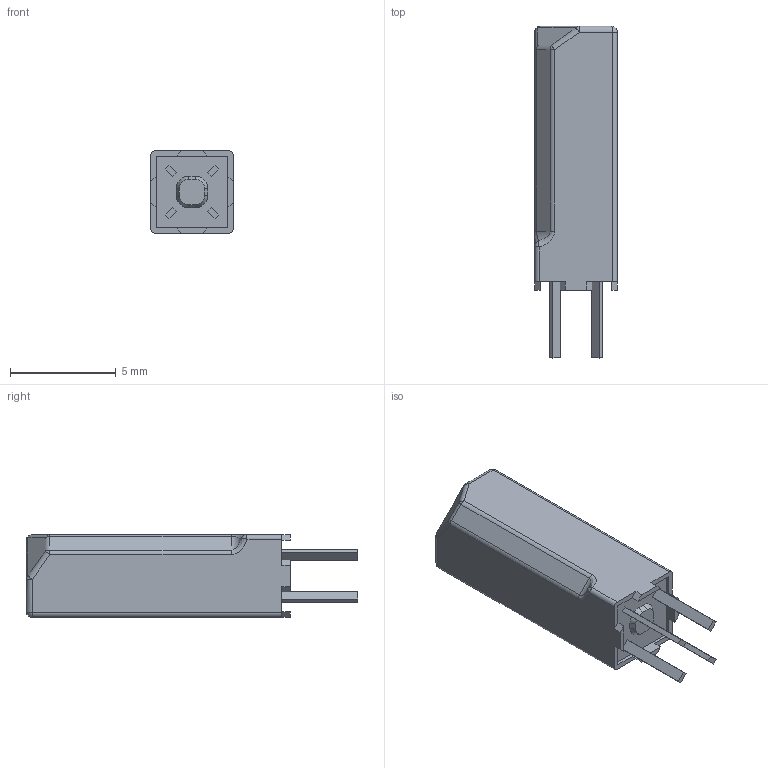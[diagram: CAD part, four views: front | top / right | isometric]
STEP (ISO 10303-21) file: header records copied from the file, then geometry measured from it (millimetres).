
FILE_DESCRIPTION (( 'STEP AP203' ), '1' );
FILE_NAME ('122-1-A .STEP', '2019-04-26T10:29:23', ( 'admin' ), ( 'Hewlett-Packard Company' ), 'SwSTEP 2.0', 'SolidWorks 2017', '' );
FILE_SCHEMA (( 'CONFIG_CONTROL_DESIGN' ));
Length unit declared in the file: millimetre
Products named in the file (1): 122-1-A 
Bounding box: 3.9 x 15.7 x 3.9 mm (x, y, z)
Volume: 180.2 mm3; surface area: 238.3 mm2
Topology: 1 solids, 1 shells, 367 faces, 991 edges, 648 vertices
Faces by surface type: plane 181, bspline 163, cylinder 15, sphere 4, cone 4
Entity records: 17720 total; most frequent: CARTESIAN_POINT 9580, ORIENTED_EDGE 1970, DIRECTION 1099, EDGE_CURVE 985, VERTEX_POINT 648, LINE 629, VECTOR 629, EDGE_LOOP 395
